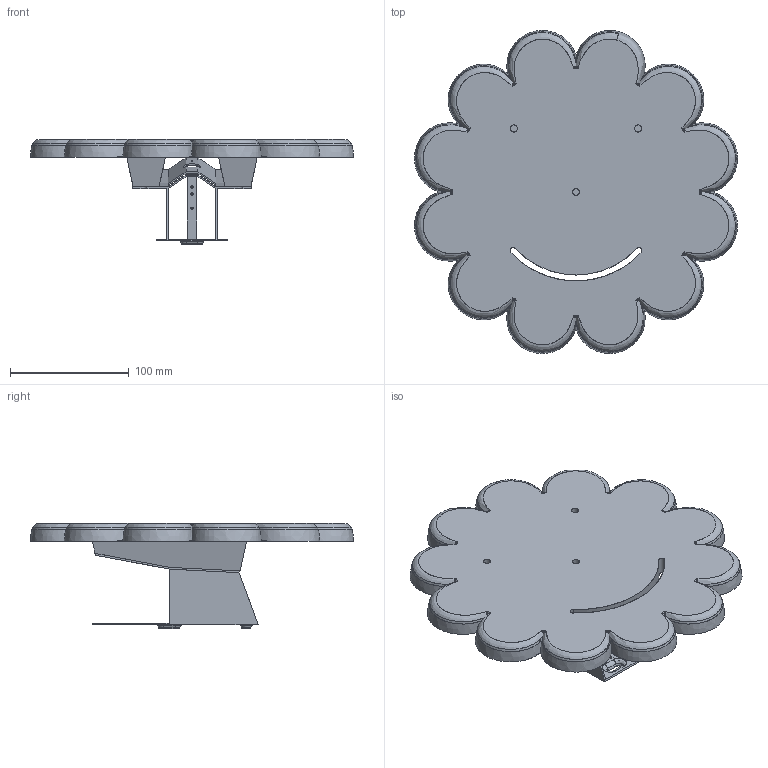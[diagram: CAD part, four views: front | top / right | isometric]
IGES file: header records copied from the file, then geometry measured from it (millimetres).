
Start section: SolidWorks IGES file using analytic representation for surfaces
Global section: file name: C:\Users\Stagiaire\Desktop\Rendu 3D\BISCUIT\3131_BISCUIT_ROND\3131_BISCUIT_ROND.IGS; native system: SolidWorks 2014; preprocessor: SolidWorks 2014; author: Stagiaire; date: 140923.145029; units: millimetre
Bounding box: 272.48 x 272.48 x 88.57 mm (x, y, z)
Surface area: 185615.5 mm2 (no closed solid volume)
Topology: 0 solids, 0 shells, 294 faces, 6827 edges, 6798 vertices
Faces by surface type: bspline 175, revolution 119
